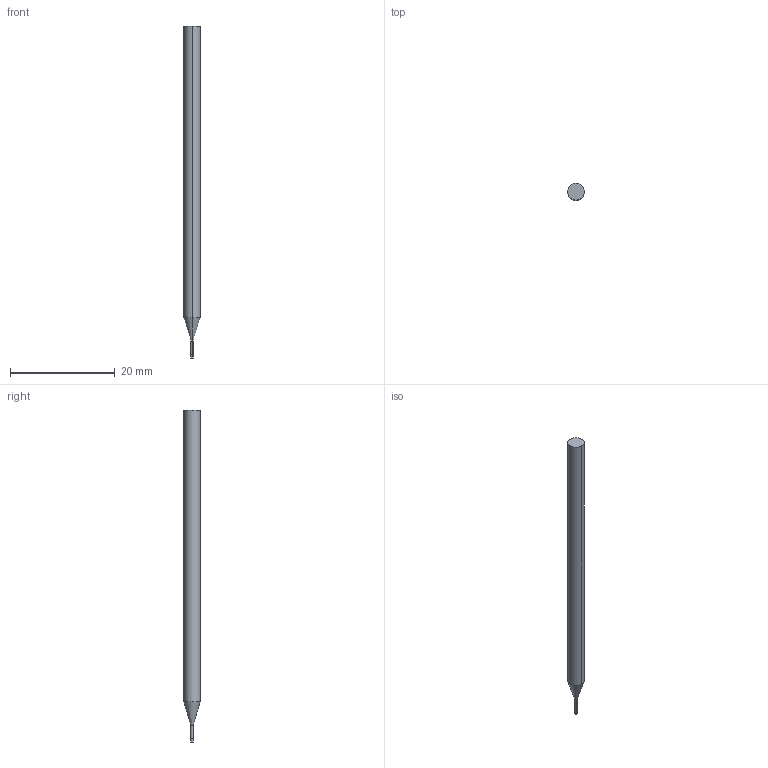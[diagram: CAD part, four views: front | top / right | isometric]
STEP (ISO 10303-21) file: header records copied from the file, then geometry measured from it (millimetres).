
FILE_DESCRIPTION((' '),'2;1');
FILE_NAME( '3MVS0156N8AH.stp', '2026-01-21T19:06:24', (' '), ('--- Datakit www.datakit.com---'), ' Datakit CrossCadWare V2025.4 Sep 19 2025', 'Mastercam 2027', ' ');
FILE_SCHEMA(('AUTOMOTIVE_DESIGN { 1 0 10303 214 1 1 1 1 }'));
Length unit declared in the file: inch
Products named in the file (1): 3MVS0156N8AH
Bounding box: 3.17 x 3.17 x 63.5 mm (x, y, z)
Volume: 455.7 mm3; surface area: 595 mm2
Topology: 1 solids, 1 shells, 10 faces, 18 edges, 10 vertices
Faces by surface type: cylinder 6, plane 2, cone 2
Entity records: 323 total; most frequent: DIRECTION 58, CARTESIAN_POINT 43, ORIENTED_EDGE 36, AXIS2_PLACEMENT_3D 25, EDGE_CURVE 18, VERTEX_POINT 10, CIRCLE 10, EDGE_LOOP 10
